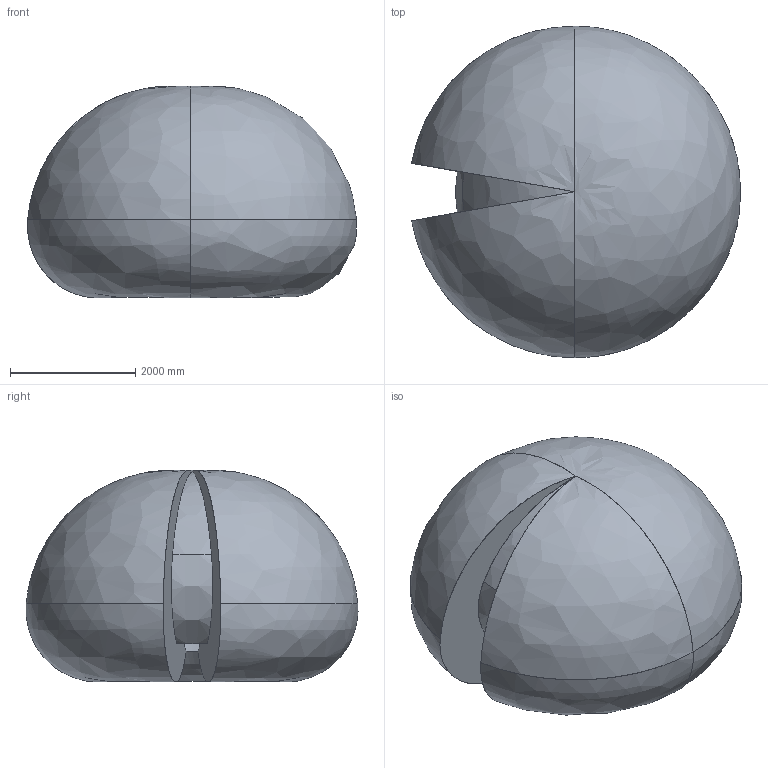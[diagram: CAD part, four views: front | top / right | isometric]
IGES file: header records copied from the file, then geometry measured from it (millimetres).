
Start section: SolidWorks IGES file using analytic representation for surfaces
Global section: file name: C:\DATA\SAP_DOC\LW\IRB 6720\IRB6720-LID-MH_215kg-265_OC_01_SW_J\export\IRB6720-LID-MH_215kg-265_OC_01_IGES_J\IRB6720-LID_215kg-265_OC_00_Working-space.igs; native system: SolidWorks 2024; preprocessor: SolidWorks 2024; author: SEJOVAS3; date: 260526.094401; units: millimetre
Bounding box: 5254.69 x 5300.59 x 3381.71 mm (x, y, z)
Surface area: 88301152.1 mm2 (no closed solid volume)
Topology: 0 solids, 0 shells, 18 faces, 384 edges, 376 vertices
Faces by surface type: bspline 18
